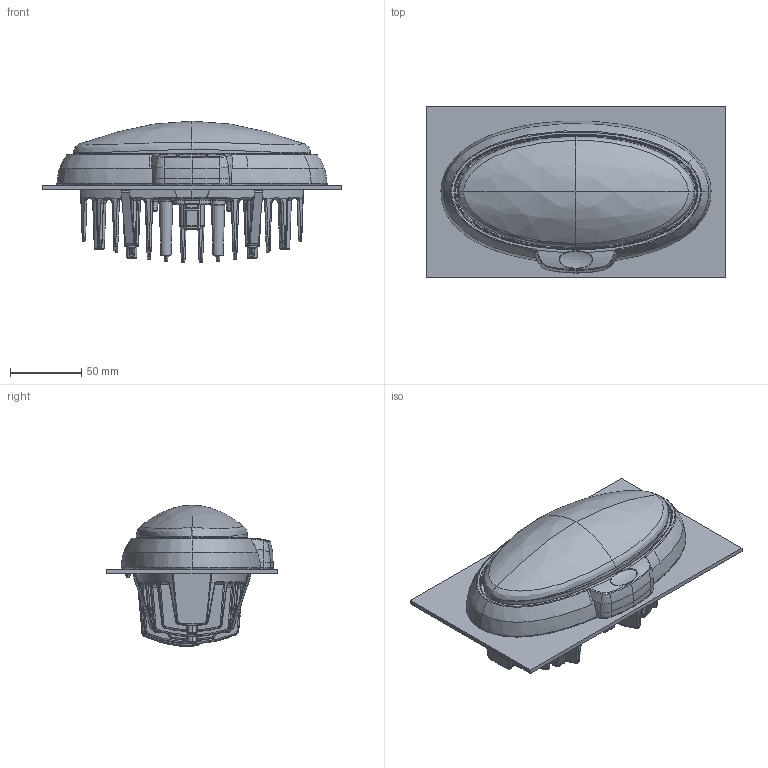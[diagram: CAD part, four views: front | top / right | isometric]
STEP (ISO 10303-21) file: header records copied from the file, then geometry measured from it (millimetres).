
FILE_DESCRIPTION(('CATIA V5 STEP Exchange','CAx-IF Rec.Pracs.--- Model Styling and Organization---1.5--- 2016-08-15','CAx-IF Rec.Pracs.---Supplemental Geometry---1.0---2011-11-01','CAx-IF Rec.Pracs.--- Composite Materials ---1.1---2010-07-15'),'2;1');
FILE_NAME('E:\tmp\ddx\2011218\HELLA_3D_data_Oval_90_LED_Gen_1_flush_mounting_1GB-996-386-03.stp','2022-01-18T07:36:40+00:00',('none'),('none'),'CATIA Version 5-6 Release 2020 SP3 HF9','CATIA V5 STEP AP214 Edition 3 v2','none');
FILE_SCHEMA(('AUTOMOTIVE_DESIGN { 1 0 10303 214 3 1 1 1 }'));
Products named in the file (1): 10001004897_D10_001
Bounding box: 210 x 120 x 99.5 mm (x, y, z)
Volume: 676643.6 mm3; surface area: 161261.7 mm2
Topology: 1 solids, 13 shells, 3692 faces, 9379 edges, 5534 vertices
Faces by surface type: bspline 1621, cylinder 774, plane 646, torus 365, cone 174, sphere 92, extrusion 12, revolution 8
Entity records: 204308 total; most frequent: CARTESIAN_POINT 134548, ORIENTED_EDGE 18400, EDGE_CURVE 9200, DIRECTION 7265, VERTEX_POINT 5534, B_SPLINE_CURVE_WITH_KNOTS 5525, EDGE_LOOP 3745, ADVANCED_FACE 3692
